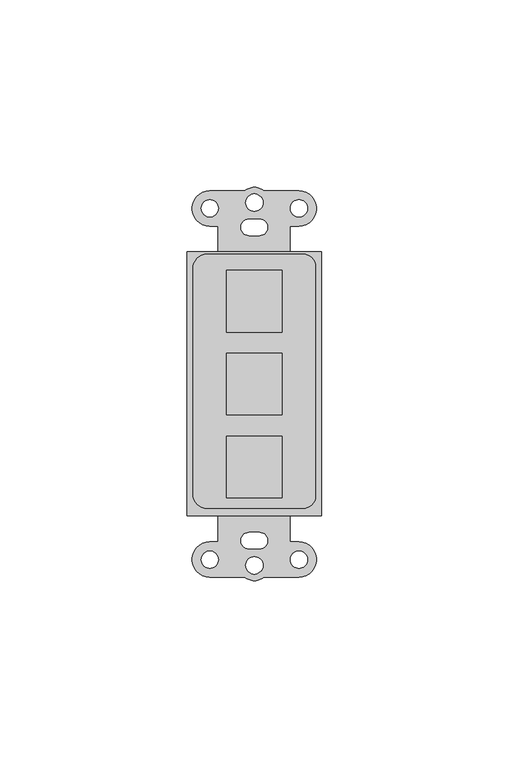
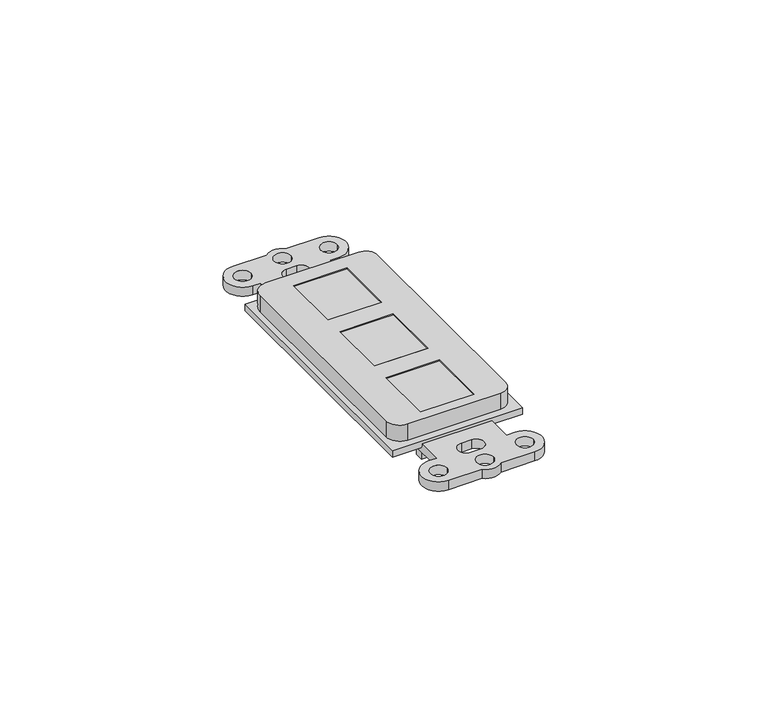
"""IFC4 building model written with IfcOpenShell, lengths in millimetres: electric appliance geometry, Data_Device-Network-Leviton-QuickPort-Duplex : 3-Ports Floor Box Mounting Bezel, Color Black."""

from ifc_helpers import new_model, si_unit, frame, origin, origin_with_axes, place, context, project, spatial, polyline, circle_curve, outline, extrude, source, transform, mapped, element, save
from ifc_brep_helpers import plane_surface, cylinder_surface, revolved_surface, advanced_brep


def electric_appliance_889624e1(model_context):
    return source(origin(), model_context, "Body", "SolidModel", [
        advanced_brep(
        [(-10.0194153, 40.0764273, 8.255), (-35.6225625, 40.0764273, 8.255), (-39.4081, 36.2908898, 8.255), (-39.4081, -23.9315727, 8.255), (-35.6225625, -27.7171102, 8.255), (-10.0194153, -27.7171102, 8.255), (-6.6421, -24.3397948, 8.255), (-6.6421, 36.699112, 8.255), (-30.3911, 35.8221502, 8.255), (-15.6591, 35.8221502, 8.255), (-15.6591, 19.3121502, 8.255), (-30.3911, 19.3121502, 8.255), (-30.3911, 13.6955752, 8.255), (-15.6591, 13.6955752, 8.255), (-15.6591, -2.8144248, 8.255), (-30.3911, -2.8144248, 8.255), (-15.6591, -8.4309998, 8.255), (-15.6591, -24.9409998, 8.255), (-30.3911, -24.9409998, 8.255), (-30.3911, -8.4309998, 8.255), (-32.6771, -36.6462175, 2.667), (-34.9256764, -36.6462175, 2.667), (-34.9256764, -46.0442175, 2.667), (-25.6156329, -46.0442175, 2.667), (-20.3869949, -46.0442175, 2.667), (-11.1131764, -46.0442175, 2.667), (-11.1131764, -36.6462175, 2.667), (-13.4944264, -36.6462175, 2.667), (-13.4944264, -29.7247175, 2.667), (-32.6771, -29.7247175, 2.667), (-24.4501, -38.5287175, 2.667), (-24.4501, -34.1287175, 2.667), (-21.6501, -34.1287175, 2.667), (-21.6501, -38.5287175, 2.667), (-37.2116764, -41.3960175, 2.667), (-32.6396764, -41.3960175, 2.667), (-25.3421446, -42.9327175, 2.667), (-20.7080554, -42.9327175, 2.667), (-13.3991764, -41.3960175, 2.667), (-8.8271764, -41.3960175, 2.667), (-13.4944264, 47.5547825, 2.667), (-11.1131764, 47.5547825, 2.667), (-11.1131764, 56.9527825, 2.667), (-20.3869949, 56.9527825, 2.667), (-25.6156329, 56.9527825, 2.667), (-34.9256764, 56.9527825, 2.667), (-34.9256764, 47.5547825, 2.667), (-32.6771, 47.5547825, 2.667), (-32.6771, 40.7159332, 2.667), (-13.4944264, 40.7159332, 2.667), (-24.4501, 49.4372825, 2.667), (-21.6501, 49.4372825, 2.667), (-21.6501, 45.0372825, 2.667), (-24.4501, 45.0372825, 2.667), (-37.2116764, 52.3045825, 2.667), (-32.6396764, 52.3045825, 2.667), (-25.3421446, 53.8412825, 2.667), (-20.7080554, 53.8412825, 2.667), (-13.3991764, 52.3045825, 2.667), (-8.8271764, 52.3045825, 2.667), (-13.4944264, -25.4893681, 0.0), (-13.4944264, -36.6462175, 0.0), (-11.1131764, -36.6462175, 0.0), (-11.1131764, -46.0442175, 0.0), (-20.3869949, -46.0442175, 0.0), (-25.6156329, -46.0442175, 0.0), (-34.9256764, -46.0442175, 0.0), (-34.9256764, -36.6462175, 0.0), (-32.6771, -36.6462175, 0.0), (-32.6771, -25.4893681, 0.0), (-31.9151, -25.4893681, 0.0), (-31.9151, -28.0737175, 0.0), (-14.1351, -28.0737175, 0.0), (-14.1351, -25.4893681, 0.0), (-24.4501, -38.5287175, 0.0), (-21.6501, -38.5287175, 0.0), (-21.6501, -34.1287175, 0.0), (-24.4501, -34.1287175, 0.0), (-37.2116764, -41.3960175, 0.0), (-32.6396764, -41.3960175, 0.0), (-25.3421446, -42.9327175, 0.0), (-20.7080554, -42.9327175, 0.0), (-13.3991764, -41.3960175, 0.0), (-8.8271764, -41.3960175, 0.0), (-32.6771, 36.3979332, 0.0), (-32.6771, 47.5547825, 0.0), (-34.9256764, 47.5547825, 0.0), (-34.9256764, 56.9527825, 0.0), (-25.6156329, 56.9527825, 0.0), (-20.3869949, 56.9527825, 0.0), (-11.1131764, 56.9527825, 0.0), (-11.1131764, 47.5547825, 0.0), (-13.4944264, 47.5547825, 0.0), (-13.4944264, 36.3979332, 0.0), (-14.1351, 36.3979332, 0.0), (-14.1351, 40.5062825, 0.0), (-31.9151, 40.5062825, 0.0), (-31.9151, 36.3979332, 0.0), (-24.4501, 49.4372825, 0.0), (-24.4501, 45.0372825, 0.0), (-21.6501, 45.0372825, 0.0), (-21.6501, 49.4372825, 0.0), (-37.2116764, 52.3045825, 0.0), (-32.6396764, 52.3045825, 0.0), (-25.3421446, 53.8412825, 0.0), (-20.7080554, 53.8412825, 0.0), (-13.3991764, 52.3045825, 0.0), (-8.8271764, 52.3045825, 0.0), (-32.6771, -29.7247175, 1.651), (-32.6771, -25.4893681, 1.651), (-13.4944264, -25.4893681, 1.651), (-13.4944264, -29.7247175, 1.651), (-31.9151, -25.4893681, 1.651), (-14.1351, -25.4893681, 1.651), (-13.4944264, 36.3979332, 1.651), (-14.1351, 36.3979332, 1.651), (-31.9151, 36.3979332, 1.651), (-32.6771, 36.3979332, 1.651), (-13.4944264, 40.7159332, 1.651), (-32.6771, 40.7159332, 1.651), (-10.0194153, 40.0764273, 3.556), (-35.6225625, 40.0764273, 3.556), (-39.4081, 36.2908898, 3.556), (-39.4081, -23.9315727, 3.556), (-35.6225625, -27.7171102, 3.556), (-10.0194153, -27.7171102, 3.556), (-6.6421, -24.3397948, 3.556), (-6.6421, 36.699112, 3.556), (-40.9321, 40.7159332, 3.556), (-40.9321, -29.7247175, 3.556), (-5.1181, -29.7247175, 3.556), (-5.1181, 40.7159332, 3.556), (-5.1181, 40.7159332, 1.651), (-5.1181, -29.7247175, 1.651), (-40.9321, -29.7247175, 1.651), (-40.9321, 40.7159332, 1.651), (-15.6591, 35.8221502, -1.651), (-30.3911, 35.8221502, -1.651), (-30.3911, 19.3121502, -1.651), (-15.6591, 19.3121502, -1.651), (-15.6591, 13.6955752, -1.651), (-30.3911, 13.6955752, -1.651), (-30.3911, -2.8144248, -1.651), (-15.6591, -2.8144248, -1.651), (-15.6591, -24.9409998, -1.651), (-15.6591, -8.4309998, -1.651), (-30.3911, -8.4309998, -1.651), (-30.3911, -24.9409998, -1.651), (-14.1351, -28.0737175, -3.175), (-14.1351, -25.5337175, -3.175), (-14.1351, -25.5337175, -1.651), (-14.1351, 37.9662825, -1.651), (-14.1351, 37.9662825, -3.175), (-14.1351, 40.5062825, -3.175), (-31.9151, 40.5062825, -3.175), (-31.9151, 37.9662825, -3.175), (-31.9151, 37.9662825, -1.651), (-31.9151, -25.5337175, -1.651), (-31.9151, -25.5337175, -3.175), (-31.9151, -28.0737175, -3.175)],
        [
            (0, 1),
            (1, 2, circle_curve(frame((-35.6225625, 36.2908898, 8.255), z_axis=(0.0, 0.0, 1.0), x_axis=(1.0, 0.0, 0.0)), 3.7855375)),
            (2, 3),
            (3, 4, circle_curve(frame((-35.6225625, -23.9315727, 8.255), z_axis=(0.0, 0.0, 1.0), x_axis=(1.0, 0.0, 0.0)), 3.7855375)),
            (4, 5),
            (5, 6, circle_curve(frame((-10.0194153, -24.3397948, 8.255), z_axis=(0.0, 0.0, 1.0), x_axis=(1.0, 0.0, 0.0)), 3.3773153)),
            (6, 7),
            (7, 0, circle_curve(frame((-10.0194153, 36.699112, 8.255), z_axis=(0.0, 0.0, 1.0), x_axis=(1.0, 0.0, 0.0)), 3.3773153)),
            (8, 9),
            (9, 10),
            (10, 11),
            (11, 8),
            (12, 13),
            (13, 14),
            (14, 15),
            (15, 12),
            (16, 17),
            (17, 18),
            (18, 19),
            (19, 16),
            (20, 21),
            (21, 22, circle_curve(frame((-34.9256764, -41.3452175, 2.667), z_axis=(0.0, 0.0, 1.0), x_axis=(1.0, 0.0, 0.0)), 4.699)),
            (22, 23),
            (23, 24, circle_curve(frame((-23.0013139, -42.9327175, 2.667), z_axis=(0.0, 0.0, 1.0), x_axis=(1.0, 0.0, 0.0)), 4.064)),
            (24, 25),
            (25, 26, circle_curve(frame((-11.1131764, -41.3452175, 2.667), z_axis=(0.0, 0.0, 1.0), x_axis=(1.0, 0.0, 0.0)), 4.699)),
            (26, 27),
            (27, 28),
            (28, 29),
            (29, 20),
            (30, 31, circle_curve(frame((-24.4501, -36.3287175, 2.667), z_axis=(0.0, 0.0, -1.0), x_axis=(1.0, 0.0, 0.0)), 2.2)),
            (31, 32),
            (32, 33, circle_curve(frame((-21.6501, -36.3287175, 2.667), z_axis=(0.0, 0.0, -1.0), x_axis=(1.0, 0.0, 0.0)), 2.2)),
            (33, 30),
            (34, 35, circle_curve(frame((-34.9256764, -41.3960175, 2.667), z_axis=(0.0, 0.0, -1.0), x_axis=(1.0, 0.0, 0.0)), 2.286)),
            (35, 34, circle_curve(frame((-34.9256764, -41.3960175, 2.667), z_axis=(0.0, 0.0, -1.0), x_axis=(1.0, 0.0, 0.0)), 2.286)),
            (36, 37, circle_curve(frame((-23.0251, -42.9327175, 2.667), z_axis=(0.0, 0.0, -1.0), x_axis=(1.0, 0.0, 0.0)), 2.3170446)),
            (37, 36, circle_curve(frame((-23.0251, -42.9327175, 2.667), z_axis=(0.0, 0.0, -1.0), x_axis=(1.0, 0.0, 0.0)), 2.3170446)),
            (38, 39, circle_curve(frame((-11.1131764, -41.3960175, 2.667), z_axis=(0.0, 0.0, -1.0), x_axis=(1.0, 0.0, 0.0)), 2.286)),
            (39, 38, circle_curve(frame((-11.1131764, -41.3960175, 2.667), z_axis=(0.0, 0.0, -1.0), x_axis=(1.0, 0.0, 0.0)), 2.286)),
            (40, 41),
            (41, 42, circle_curve(frame((-11.1131764, 52.2537825, 2.667), z_axis=(0.0, 0.0, 1.0), x_axis=(1.0, 0.0, 0.0)), 4.699)),
            (42, 43),
            (43, 44, circle_curve(frame((-23.0013139, 53.8412825, 2.667), z_axis=(0.0, 0.0, 1.0), x_axis=(1.0, 0.0, 0.0)), 4.064)),
            (44, 45),
            (45, 46, circle_curve(frame((-34.9256764, 52.2537825, 2.667), z_axis=(0.0, 0.0, 1.0), x_axis=(1.0, 0.0, 0.0)), 4.699)),
            (46, 47),
            (47, 48),
            (48, 49),
            (49, 40),
            (50, 51),
            (51, 52, circle_curve(frame((-21.6501, 47.2372825, 2.667), z_axis=(0.0, 0.0, -1.0), x_axis=(1.0, 0.0, 0.0)), 2.2)),
            (52, 53),
            (53, 50, circle_curve(frame((-24.4501, 47.2372825, 2.667), z_axis=(0.0, 0.0, -1.0), x_axis=(1.0, 0.0, 0.0)), 2.2)),
            (54, 55, circle_curve(frame((-34.9256764, 52.3045825, 2.667), z_axis=(0.0, 0.0, -1.0), x_axis=(1.0, 0.0, 0.0)), 2.286)),
            (55, 54, circle_curve(frame((-34.9256764, 52.3045825, 2.667), z_axis=(0.0, 0.0, -1.0), x_axis=(1.0, 0.0, 0.0)), 2.286)),
            (56, 57, circle_curve(frame((-23.0251, 53.8412825, 2.667), z_axis=(0.0, 0.0, -1.0), x_axis=(1.0, 0.0, 0.0)), 2.3170446)),
            (57, 56, circle_curve(frame((-23.0251, 53.8412825, 2.667), z_axis=(0.0, 0.0, -1.0), x_axis=(1.0, 0.0, 0.0)), 2.3170446)),
            (58, 59, circle_curve(frame((-11.1131764, 52.3045825, 2.667), z_axis=(0.0, 0.0, -1.0), x_axis=(1.0, 0.0, 0.0)), 2.286)),
            (59, 58, circle_curve(frame((-11.1131764, 52.3045825, 2.667), z_axis=(0.0, 0.0, -1.0), x_axis=(1.0, 0.0, 0.0)), 2.286)),
            (60, 61),
            (61, 62),
            (62, 63, circle_curve(frame((-11.1131764, -41.3452175, 0.0), z_axis=(0.0, 0.0, -1.0), x_axis=(1.0, 0.0, 0.0)), 4.699)),
            (63, 64),
            (64, 65, circle_curve(frame((-23.0013139, -42.9327175, 0.0), z_axis=(0.0, 0.0, -1.0), x_axis=(1.0, 0.0, 0.0)), 4.064)),
            (65, 66),
            (66, 67, circle_curve(frame((-34.9256764, -41.3452175, 0.0), z_axis=(0.0, 0.0, -1.0), x_axis=(1.0, 0.0, 0.0)), 4.699)),
            (67, 68),
            (68, 69),
            (69, 70),
            (70, 71),
            (71, 72),
            (72, 73),
            (73, 60),
            (74, 75),
            (75, 76, circle_curve(frame((-21.6501, -36.3287175, 0.0), z_axis=(0.0, 0.0, 1.0), x_axis=(1.0, 0.0, 0.0)), 2.2)),
            (76, 77),
            (77, 74, circle_curve(frame((-24.4501, -36.3287175, 0.0), z_axis=(0.0, 0.0, 1.0), x_axis=(1.0, 0.0, 0.0)), 2.2)),
            (78, 79, circle_curve(frame((-34.9256764, -41.3960175, 0.0), z_axis=(0.0, 0.0, 1.0), x_axis=(1.0, 0.0, 0.0)), 2.286)),
            (79, 78, circle_curve(frame((-34.9256764, -41.3960175, 0.0), z_axis=(0.0, 0.0, 1.0), x_axis=(1.0, 0.0, 0.0)), 2.286)),
            (80, 81, circle_curve(frame((-23.0251, -42.9327175, 0.0), z_axis=(0.0, 0.0, 1.0), x_axis=(1.0, 0.0, 0.0)), 2.3170446)),
            (81, 80, circle_curve(frame((-23.0251, -42.9327175, 0.0), z_axis=(0.0, 0.0, 1.0), x_axis=(1.0, 0.0, 0.0)), 2.3170446)),
            (82, 83, circle_curve(frame((-11.1131764, -41.3960175, 0.0), z_axis=(0.0, 0.0, 1.0), x_axis=(1.0, 0.0, 0.0)), 2.286)),
            (83, 82, circle_curve(frame((-11.1131764, -41.3960175, 0.0), z_axis=(0.0, 0.0, 1.0), x_axis=(1.0, 0.0, 0.0)), 2.286)),
            (84, 85),
            (85, 86),
            (86, 87, circle_curve(frame((-34.9256764, 52.2537825, 0.0), z_axis=(0.0, 0.0, -1.0), x_axis=(1.0, 0.0, 0.0)), 4.699)),
            (87, 88),
            (88, 89, circle_curve(frame((-23.0013139, 53.8412825, 0.0), z_axis=(0.0, 0.0, -1.0), x_axis=(1.0, 0.0, 0.0)), 4.064)),
            (89, 90),
            (90, 91, circle_curve(frame((-11.1131764, 52.2537825, 0.0), z_axis=(0.0, 0.0, -1.0), x_axis=(1.0, 0.0, 0.0)), 4.699)),
            (91, 92),
            (92, 93),
            (93, 94),
            (94, 95),
            (95, 96),
            (96, 97),
            (97, 84),
            (98, 99, circle_curve(frame((-24.4501, 47.2372825, 0.0), z_axis=(0.0, 0.0, 1.0), x_axis=(1.0, 0.0, 0.0)), 2.2)),
            (99, 100),
            (100, 101, circle_curve(frame((-21.6501, 47.2372825, 0.0), z_axis=(0.0, 0.0, 1.0), x_axis=(1.0, 0.0, 0.0)), 2.2)),
            (101, 98),
            (102, 103, circle_curve(frame((-34.9256764, 52.3045825, 0.0), z_axis=(0.0, 0.0, 1.0), x_axis=(1.0, 0.0, 0.0)), 2.286)),
            (103, 102, circle_curve(frame((-34.9256764, 52.3045825, 0.0), z_axis=(0.0, 0.0, 1.0), x_axis=(1.0, 0.0, 0.0)), 2.286)),
            (104, 105, circle_curve(frame((-23.0251, 53.8412825, 0.0), z_axis=(0.0, 0.0, 1.0), x_axis=(1.0, 0.0, 0.0)), 2.3170446)),
            (105, 104, circle_curve(frame((-23.0251, 53.8412825, 0.0), z_axis=(0.0, 0.0, 1.0), x_axis=(1.0, 0.0, 0.0)), 2.3170446)),
            (106, 107, circle_curve(frame((-11.1131764, 52.3045825, 0.0), z_axis=(0.0, 0.0, 1.0), x_axis=(1.0, 0.0, 0.0)), 2.286)),
            (107, 106, circle_curve(frame((-11.1131764, 52.3045825, 0.0), z_axis=(0.0, 0.0, 1.0), x_axis=(1.0, 0.0, 0.0)), 2.286)),
            (30, 74),
            (77, 31),
            (76, 32),
            (75, 33),
            (50, 98),
            (101, 51),
            (100, 52),
            (99, 53),
            (68, 20),
            (29, 108),
            (108, 109),
            (109, 69),
            (67, 21),
            (66, 22),
            (65, 23),
            (64, 24),
            (63, 25),
            (62, 26),
            (61, 27),
            (60, 110),
            (110, 111),
            (111, 28),
            (109, 112),
            (112, 70),
            (73, 113),
            (113, 110),
            (34, 78),
            (79, 35),
            (36, 80),
            (81, 37),
            (38, 82),
            (83, 39),
            (93, 114),
            (114, 115),
            (115, 94),
            (97, 116),
            (116, 117),
            (117, 84),
            (92, 40),
            (49, 118),
            (118, 114),
            (91, 41),
            (90, 42),
            (89, 43),
            (88, 44),
            (87, 45),
            (86, 46),
            (85, 47),
            (117, 119),
            (119, 48),
            (54, 102),
            (103, 55),
            (56, 104),
            (105, 57),
            (58, 106),
            (107, 59),
            (0, 120),
            (120, 121),
            (121, 1),
            (121, 122, circle_curve(frame((-35.6225625, 36.2908898, 3.556), z_axis=(0.0, 0.0, 1.0), x_axis=(1.0, 0.0, 0.0)), 3.7855375)),
            (122, 2),
            (122, 123),
            (123, 3),
            (123, 124, circle_curve(frame((-35.6225625, -23.9315727, 3.556), z_axis=(0.0, 0.0, 1.0), x_axis=(1.0, 0.0, 0.0)), 3.7855375)),
            (124, 4),
            (124, 125),
            (125, 5),
            (125, 126, circle_curve(frame((-10.0194153, -24.3397948, 3.556), z_axis=(0.0, 0.0, 1.0), x_axis=(1.0, 0.0, 0.0)), 3.3773153)),
            (126, 6),
            (126, 127),
            (127, 7),
            (127, 120, circle_curve(frame((-10.0194153, 36.699112, 3.556), z_axis=(0.0, 0.0, 1.0), x_axis=(1.0, 0.0, 0.0)), 3.3773153)),
            (128, 129),
            (129, 130),
            (130, 131),
            (131, 128),
            (132, 133),
            (133, 111),
            (113, 115),
            (118, 132),
            (134, 135),
            (135, 119),
            (116, 112),
            (108, 134),
            (128, 135),
            (134, 129),
            (133, 130),
            (132, 131),
            (136, 9),
            (8, 137),
            (137, 136),
            (11, 138),
            (138, 137),
            (10, 139),
            (139, 138),
            (136, 139),
            (140, 13),
            (12, 141),
            (141, 140),
            (15, 142),
            (142, 141),
            (14, 143),
            (143, 142),
            (140, 143),
            (144, 17),
            (16, 145),
            (145, 144),
            (19, 146),
            (146, 145),
            (18, 147),
            (147, 146),
            (144, 147),
            (148, 149),
            (149, 150),
            (150, 151),
            (151, 152),
            (152, 153),
            (153, 95),
            (72, 148),
            (154, 155),
            (155, 156),
            (156, 157),
            (157, 158),
            (158, 159),
            (159, 71),
            (96, 154),
            (153, 154),
            (159, 148),
            (158, 149),
            (157, 150),
            (156, 151),
            (155, 152),
        ],
        [
            plane_surface(frame((-35.6225625, 40.0764273, 8.255), z_axis=(0.0, 0.0, 1.0), x_axis=(-1.0, 0.0, 0.0))),
            plane_surface(frame((-22.2501, -36.3287175, 2.667), z_axis=(0.0, 0.0, 1.0), x_axis=(0.0, -1.0, 0.0))),
            plane_surface(frame((-22.2501, -36.3287175, 0.0), z_axis=(0.0, 0.0, -1.0), x_axis=(0.0, 1.0, 0.0))),
            revolved_surface(polyline([(-22.2501, -36.3287175, 0.0), (-22.2501, -36.3287175, 2.667)]), (-24.4501, -36.3287175, 0.0), (0.0, 0.0, -1.0)),
            plane_surface(frame((-24.4501, -34.1287175, 2.667), z_axis=(0.0, -1.0, 0.0), x_axis=(0.0, 0.0, -1.0))),
            revolved_surface(polyline([(-19.4501, -36.3287175, 0.0), (-19.4501, -36.3287175, 2.667)]), (-21.6501, -36.3287175, 0.0), (0.0, 0.0, -1.0)),
            plane_surface(frame((-21.6501, -38.5287175, 2.667), z_axis=(0.0, 1.0, 0.0), x_axis=(0.0, 0.0, -1.0))),
            plane_surface(frame((-24.4501, 49.4372825, 2.667), z_axis=(0.0, -1.0, 0.0), x_axis=(0.0, 0.0, -1.0))),
            revolved_surface(polyline([(-19.4501, 47.2372825, 0.0), (-19.4501, 47.2372825, 2.667)]), (-21.6501, 47.2372825, 0.0), (0.0, 0.0, -1.0)),
            plane_surface(frame((-21.6501, 45.0372825, 2.667), z_axis=(0.0, 1.0, 0.0), x_axis=(0.0, 0.0, -1.0))),
            revolved_surface(polyline([(-22.2501, 47.2372825, 0.0), (-22.2501, 47.2372825, 2.667)]), (-24.4501, 47.2372825, 0.0), (0.0, 0.0, -1.0)),
            plane_surface(frame((-32.6771, -25.4893681, 2.667), z_axis=(-1.0, 0.0, 0.0), x_axis=(0.0, 0.0, -1.0))),
            plane_surface(frame((-32.6771, -36.6462175, 2.667), z_axis=(0.0, 1.0, 0.0), x_axis=(0.0, 0.0, -1.0))),
            cylinder_surface(frame((-34.9256764, -41.3452175, 0.0), z_axis=(0.0, 0.0, 1.0), x_axis=(1.0, 0.0, 0.0)), 4.699),
            plane_surface(frame((-34.9256764, -46.0442175, 2.667), z_axis=(0.0, -1.0, 0.0), x_axis=(0.0, 0.0, -1.0))),
            cylinder_surface(frame((-23.0013139, -42.9327175, 0.0), z_axis=(0.0, 0.0, 1.0), x_axis=(1.0, 0.0, 0.0)), 4.064),
            plane_surface(frame((-20.3869949, -46.0442175, 2.667), z_axis=(0.0, -1.0, 0.0), x_axis=(0.0, 0.0, -1.0))),
            cylinder_surface(frame((-11.1131764, -41.3452175, 0.0), z_axis=(0.0, 0.0, 1.0), x_axis=(1.0, 0.0, 0.0)), 4.699),
            plane_surface(frame((-11.1131764, -36.6462175, 2.667), z_axis=(-1.119104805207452e-12, 1.0, 0.0), x_axis=(0.0, 0.0, -1.0))),
            plane_surface(frame((-13.4944264, -36.6462175, 2.667), z_axis=(1.0, 0.0, 0.0), x_axis=(0.0, 0.0, -1.0))),
            plane_surface(frame((-13.4944264, -25.4893681, 2.667), z_axis=(0.0, 1.0, 0.0), x_axis=(0.0, 0.0, -1.0))),
            revolved_surface(polyline([(-32.6396764, -41.3960175, 0.0), (-32.6396764, -41.3960175, 2.667)]), (-34.9256764, -41.3960175, 0.0), (0.0, 0.0, -1.0)),
            revolved_surface(polyline([(-20.7080554, -42.9327175, 0.0), (-20.7080554, -42.9327175, 2.667)]), (-23.0251, -42.9327175, 0.0), (0.0, 0.0, -1.0)),
            revolved_surface(polyline([(-8.8271764, -41.3960175, 0.0), (-8.8271764, -41.3960175, 2.667)]), (-11.1131764, -41.3960175, 0.0), (0.0, 0.0, -1.0)),
            plane_surface(frame((-32.6771, 36.3979332, 2.667), z_axis=(0.0, -1.0, 0.0), x_axis=(0.0, 0.0, -1.0))),
            plane_surface(frame((-13.4944264, 36.3979332, 2.667), z_axis=(1.0, 0.0, 0.0), x_axis=(0.0, 0.0, -1.0))),
            plane_surface(frame((-13.4944264, 47.5547825, 2.667), z_axis=(1.1581846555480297e-12, -1.0, 0.0), x_axis=(0.0, 0.0, -1.0))),
            cylinder_surface(frame((-11.1131764, 52.2537825, 0.0), z_axis=(0.0, 0.0, 1.0), x_axis=(1.0, 0.0, 0.0)), 4.699),
            plane_surface(frame((-11.1131764, 56.9527825, 2.667), z_axis=(0.0, 1.0, 0.0), x_axis=(0.0, 0.0, -1.0))),
            cylinder_surface(frame((-23.0013139, 53.8412825, 0.0), z_axis=(0.0, 0.0, 1.0), x_axis=(1.0, 0.0, 0.0)), 4.064),
            plane_surface(frame((-25.6156329, 56.9527825, 2.667), z_axis=(0.0, 1.0, 0.0), x_axis=(0.0, 0.0, -1.0))),
            cylinder_surface(frame((-34.9256764, 52.2537825, 0.0), z_axis=(0.0, 0.0, 1.0), x_axis=(1.0, 0.0, 0.0)), 4.699),
            plane_surface(frame((-34.9256764, 47.5547825, 2.667), z_axis=(0.0, -1.0, 0.0), x_axis=(0.0, 0.0, -1.0))),
            plane_surface(frame((-32.6771, 47.5547825, 2.667), z_axis=(-1.0, 0.0, 0.0), x_axis=(0.0, 0.0, -1.0))),
            revolved_surface(polyline([(-32.6396764, 52.3045825, 0.0), (-32.6396764, 52.3045825, 2.667)]), (-34.9256764, 52.3045825, 0.0), (0.0, 0.0, -1.0)),
            revolved_surface(polyline([(-20.7080554, 53.8412825, 0.0), (-20.7080554, 53.8412825, 2.667)]), (-23.0251, 53.8412825, 0.0), (0.0, 0.0, -1.0)),
            revolved_surface(polyline([(-8.8271764, 52.3045825, 0.0), (-8.8271764, 52.3045825, 2.667)]), (-11.1131764, 52.3045825, 0.0), (0.0, 0.0, -1.0)),
            plane_surface(frame((-10.0194153, 40.0764273, 8.255), z_axis=(0.0, 1.0, 0.0), x_axis=(0.0, 0.0, -1.0))),
            cylinder_surface(frame((-35.6225625, 36.2908898, 3.556), z_axis=(0.0, 0.0, 1.0), x_axis=(1.0, 0.0, 0.0)), 3.7855375),
            plane_surface(frame((-39.4081, 36.2908898, 8.255), z_axis=(-1.0, 0.0, 0.0), x_axis=(0.0, 0.0, -1.0))),
            cylinder_surface(frame((-35.6225625, -23.9315727, 3.556), z_axis=(0.0, 0.0, 1.0), x_axis=(1.0, 0.0, 0.0)), 3.7855375),
            plane_surface(frame((-35.6225625, -27.7171102, 8.255), z_axis=(0.0, -1.0, 0.0), x_axis=(0.0, 0.0, -1.0))),
            cylinder_surface(frame((-10.0194153, -24.3397948, 3.556), z_axis=(0.0, 0.0, 1.0), x_axis=(1.0, 0.0, 0.0)), 3.3773153),
            plane_surface(frame((-6.6421, -24.3397948, 8.255), z_axis=(1.0, 0.0, 0.0), x_axis=(0.0, 0.0, -1.0))),
            cylinder_surface(frame((-10.0194153, 36.699112, 3.556), z_axis=(0.0, 0.0, 1.0), x_axis=(1.0, 0.0, 0.0)), 3.3773153),
            plane_surface(frame((-40.9321, -28.9627175, 3.556), z_axis=(0.0, 0.0, 1.0), x_axis=(0.0, -1.0, 0.0))),
            plane_surface(frame((-40.9321, -28.9627175, 1.651), z_axis=(0.0, 0.0, -1.0), x_axis=(0.0, 1.0, 0.0))),
            plane_surface(frame((-40.9321, 40.7159332, 3.556), z_axis=(-1.0, 0.0, 0.0), x_axis=(0.0, 0.0, -1.0))),
            plane_surface(frame((-40.9321, -29.7247175, 3.556), z_axis=(0.0, -1.0, 0.0), x_axis=(0.0, 0.0, -1.0))),
            plane_surface(frame((-5.1181, -29.7247175, 3.556), z_axis=(1.0, 0.0, 0.0), x_axis=(0.0, 0.0, -1.0))),
            plane_surface(frame((-5.1181, 40.7159332, 3.556), z_axis=(0.0, 1.0, 0.0), x_axis=(0.0, 0.0, -1.0))),
            plane_surface(frame((-15.6591, 35.8221502, 8.255), z_axis=(0.0, -1.0, 0.0), x_axis=(0.0, 0.0, -1.0))),
            plane_surface(frame((-30.3911, 35.8221502, 8.255), z_axis=(1.0, 0.0, 0.0), x_axis=(0.0, 0.0, -1.0))),
            plane_surface(frame((-30.3911, 19.3121502, 8.255), z_axis=(0.0, 1.0, 0.0), x_axis=(0.0, 0.0, -1.0))),
            plane_surface(frame((-15.6591, 19.3121502, 8.255), z_axis=(-1.0, 0.0, 0.0), x_axis=(0.0, 0.0, -1.0))),
            plane_surface(frame((-15.6591, 13.6955752, 8.255), z_axis=(0.0, -1.0, 0.0), x_axis=(0.0, 0.0, -1.0))),
            plane_surface(frame((-30.3911, 13.6955752, 8.255), z_axis=(1.0, 0.0, 0.0), x_axis=(0.0, 0.0, -1.0))),
            plane_surface(frame((-30.3911, -2.8144248, 8.255), z_axis=(0.0, 1.0, 0.0), x_axis=(0.0, 0.0, -1.0))),
            plane_surface(frame((-15.6591, -2.8144248, 8.255), z_axis=(-1.0, 0.0, 0.0), x_axis=(0.0, 0.0, -1.0))),
            plane_surface(frame((-15.6591, -24.9409998, 8.255), z_axis=(-1.0, 0.0, 0.0), x_axis=(0.0, 0.0, -1.0))),
            plane_surface(frame((-15.6591, -8.4309998, 8.255), z_axis=(0.0, -1.0, 0.0), x_axis=(0.0, 0.0, -1.0))),
            plane_surface(frame((-30.3911, -8.4309998, 8.255), z_axis=(1.0, 0.0, 0.0), x_axis=(0.0, 0.0, -1.0))),
            plane_surface(frame((-30.3911, -24.9409998, 8.255), z_axis=(0.0, 1.0, 0.0), x_axis=(0.0, 0.0, -1.0))),
            plane_surface(frame((-14.1351, 40.5062825, 1.651), z_axis=(1.0, 0.0, 0.0), x_axis=(0.0, 0.0, 1.0))),
            plane_surface(frame((-31.9151, 40.5062825, 1.651), z_axis=(-1.0, 0.0, 0.0), x_axis=(0.0, 0.0, -1.0))),
            plane_surface(frame((-14.1351, 40.5062825, -3.175), z_axis=(0.0, 1.0, 0.0), x_axis=(-1.0, 0.0, 0.0))),
            plane_surface(frame((-14.1351, -28.0737175, 1.651), z_axis=(0.0, -1.0, 0.0), x_axis=(-1.0, 0.0, 0.0))),
            plane_surface(frame((-14.1351, -28.0737175, -3.175), z_axis=(0.0, 0.0, -1.0), x_axis=(-1.0, 0.0, 0.0))),
            plane_surface(frame((-14.1351, -25.5337175, -3.175), z_axis=(0.0, 1.0, 0.0), x_axis=(-1.0, 0.0, 0.0))),
            plane_surface(frame((-14.1351, -25.5337175, -1.651), z_axis=(0.0, 0.0, -1.0), x_axis=(-1.0, 0.0, 0.0))),
            plane_surface(frame((-14.1351, 37.9662825, -1.651), z_axis=(0.0, -1.0, 0.0), x_axis=(-1.0, 0.0, 0.0))),
            plane_surface(frame((-14.1351, 37.9662825, -3.175), z_axis=(0.0, 0.0, -1.0), x_axis=(-1.0, 0.0, 0.0))),
        ],
        [
            (0, [[1, 2, 3, 4, 5, 6, 7, 8], [9, 10, 11, 12], [13, 14, 15, 16], [17, 18, 19, 20]]),
            (1, [[21, 22, 23, 24, 25, 26, 27, 28, 29, 30], [31, 32, 33, 34], [35, 36], [37, 38], [39, 40]]),
            (1, [[41, 42, 43, 44, 45, 46, 47, 48, 49, 50], [51, 52, 53, 54], [55, 56], [57, 58], [59, 60]]),
            (2, [[61, 62, 63, 64, 65, 66, 67, 68, 69, 70, 71, 72, 73, 74], [75, 76, 77, 78], [79, 80], [81, 82], [83, 84]]),
            (2, [[85, 86, 87, 88, 89, 90, 91, 92, 93, 94, 95, 96, 97, 98], [99, 100, 101, 102], [103, 104], [105, 106], [107, 108]]),
            (3, [[-31, 109, -78, 110]]),
            (4, [[-32, -110, -77, 111]]),
            (5, [[-33, -111, -76, 112]]),
            (6, [[-34, -112, -75, -109]]),
            (7, [[-51, 113, -102, 114]]),
            (8, [[-52, -114, -101, 115]]),
            (9, [[-53, -115, -100, 116]]),
            (10, [[-54, -116, -99, -113]]),
            (11, [[-69, 117, -30, 118, 119, 120]]),
            (12, [[-21, -117, -68, 121]]),
            (13, [[-22, -121, -67, 122]]),
            (14, [[-23, -122, -66, 123]]),
            (15, [[-24, -123, -65, 124]]),
            (16, [[-25, -124, -64, 125]]),
            (17, [[-26, -125, -63, 126]]),
            (18, [[-27, -126, -62, 127]]),
            (19, [[-61, 128, 129, 130, -28, -127]]),
            (20, [[-70, -120, 131, 132]]),
            (20, [[-74, 133, 134, -128]]),
            (21, [[-35, 135, -80, 136]]),
            (21, [[-36, -136, -79, -135]]),
            (22, [[-37, 137, -82, 138]]),
            (22, [[-38, -138, -81, -137]]),
            (23, [[-39, 139, -84, 140]]),
            (23, [[-40, -140, -83, -139]]),
            (24, [[-94, 141, 142, 143]]),
            (24, [[-98, 144, 145, 146]]),
            (25, [[-93, 147, -50, 148, 149, -141]]),
            (26, [[-41, -147, -92, 150]]),
            (27, [[-42, -150, -91, 151]]),
            (28, [[-43, -151, -90, 152]]),
            (29, [[-44, -152, -89, 153]]),
            (30, [[-45, -153, -88, 154]]),
            (31, [[-46, -154, -87, 155]]),
            (32, [[-47, -155, -86, 156]]),
            (33, [[-85, -146, 157, 158, -48, -156]]),
            (34, [[-55, 159, -104, 160]]),
            (34, [[-56, -160, -103, -159]]),
            (35, [[-57, 161, -106, 162]]),
            (35, [[-58, -162, -105, -161]]),
            (36, [[-59, 163, -108, 164]]),
            (36, [[-60, -164, -107, -163]]),
            (37, [[-1, 165, 166, 167]]),
            (38, [[-2, -167, 168, 169]]),
            (39, [[-3, -169, 170, 171]]),
            (40, [[-4, -171, 172, 173]]),
            (41, [[-5, -173, 174, 175]]),
            (42, [[-6, -175, 176, 177]]),
            (43, [[-7, -177, 178, 179]]),
            (44, [[-8, -179, 180, -165]]),
            (45, [[181, 182, 183, 184], [-166, -180, -178, -176, -174, -172, -170, -168]]),
            (46, [[185, 186, -129, -134, 187, -142, -149, 188]]),
            (46, [[189, 190, -157, -145, 191, -131, -119, 192]]),
            (47, [[-181, 193, -189, 194]]),
            (48, [[-182, -194, -192, -118, -29, -130, -186, 195]]),
            (49, [[-183, -195, -185, 196]]),
            (50, [[-184, -196, -188, -148, -49, -158, -190, -193]]),
            (51, [[197, -9, 198, 199]]),
            (52, [[-198, -12, 200, 201]]),
            (53, [[-200, -11, 202, 203]]),
            (54, [[-197, 204, -202, -10]]),
            (55, [[205, -13, 206, 207]]),
            (56, [[-206, -16, 208, 209]]),
            (57, [[-208, -15, 210, 211]]),
            (58, [[-205, 212, -210, -14]]),
            (59, [[213, -17, 214, 215]]),
            (60, [[-214, -20, 216, 217]]),
            (61, [[-216, -19, 218, 219]]),
            (62, [[-213, 220, -218, -18]]),
            (63, [[221, 222, 223, 224, 225, 226, -95, -143, -187, -133, -73, 227]]),
            (64, [[228, 229, 230, 231, 232, 233, -71, -132, -191, -144, -97, 234]]),
            (65, [[235, -234, -96, -226]]),
            (66, [[236, -227, -72, -233]]),
            (67, [[-221, -236, -232, 237]]),
            (68, [[-222, -237, -231, 238]]),
            (69, [[-223, -238, -230, 239], [-199, -201, -203, -204], [-207, -209, -211, -212], [-215, -217, -219, -220]]),
            (70, [[-224, -239, -229, 240]]),
            (71, [[-225, -240, -228, -235]]),
        ],
    ),
        extrude(outline(polyline([(-30.3911, 35.8221502), (-15.6591, 35.8221502), (-15.6591, 19.3121502), (-30.3911, 19.3121502), (-30.3911, 35.8221502)])), origin_with_axes(), (0.0, 0.0, 1.0), 8.255),
        extrude(outline(polyline([(-30.3911, -8.4309998), (-15.6591, -8.4309998), (-15.6591, -24.9409998), (-30.3911, -24.9409998), (-30.3911, -8.4309998)])), origin_with_axes(), (0.0, 0.0, 1.0), 8.255),
        extrude(outline(polyline([(-15.6591, -2.7870102), (-30.3911, -2.7870102), (-30.3911, 13.6467898), (-15.6591, 13.6467898), (-15.6591, -2.7870102)])), origin_with_axes(), (0.0, 0.0, 1.0), 8.255),
    ])


if __name__ == "__main__":
    model = new_model("IFC4")
    model_context = context("Model", 3, world=origin())
    ifc_project = project(units=[si_unit("LENGTHUNIT", "METRE", prefix="MILLI")], contexts=[model_context])
    site = spatial("IfcSite", under=ifc_project)
    building = spatial("IfcBuilding", under=site)
    placement = place(None, origin())
    electric_appliance_shape = electric_appliance_889624e1(model_context)
    element("IfcElectricAppliance", 1, ObjectType="Data_Device-Network-Leviton-QuickPort-Duplex : 3-Ports Floor Box Mounting Bezel, Color Black", at=placement, inside=building, context=model_context, shape_type="MappedRepresentation", body=[
        mapped(electric_appliance_shape, transform((0.0, 0.0, 0.0), x_axis=(1.0, 0.0, 0.0), y_axis=(0.0, 1.0, 0.0), z_axis=(0.0, 0.0, 1.0))),
    ])
    save(model, "model.ifc")
